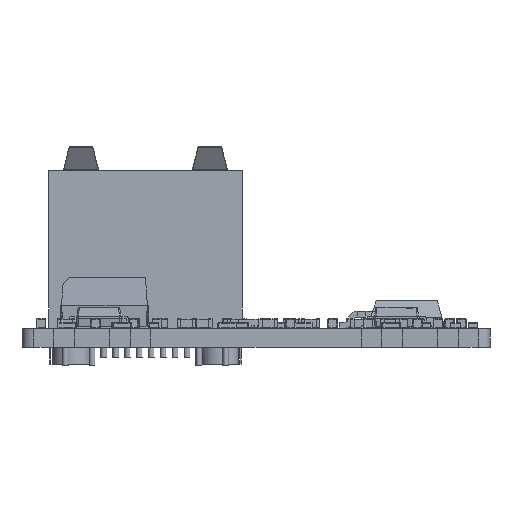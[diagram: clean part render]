
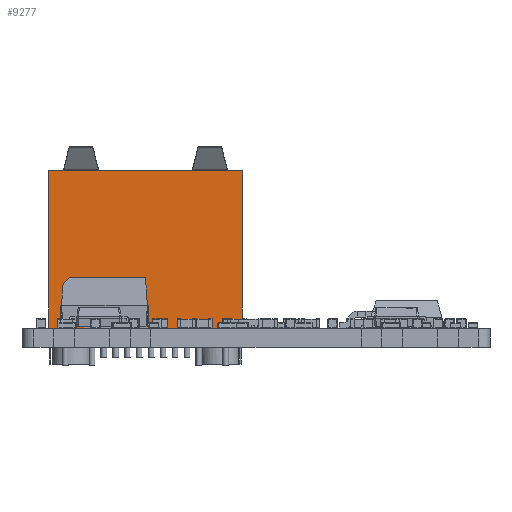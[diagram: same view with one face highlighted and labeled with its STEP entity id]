
A CAD part, front view. The second image highlights one B-rep face of the part: STEP entity #9277.
In plain terms, the highlighted planar face has unit normal (0, -1, 0).
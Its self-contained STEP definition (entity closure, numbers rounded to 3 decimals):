
#9241 = EDGE_CURVE('',#9242,#9244,#9246,.T.);
#9242 = VERTEX_POINT('',#9243);
#9243 = CARTESIAN_POINT('',(11.805,-7.75,0.));
#9244 = VERTEX_POINT('',#9245);
#9245 = CARTESIAN_POINT('',(11.805,-7.75,13.46));
#9246 = LINE('',#9247,#9248);
#9247 = CARTESIAN_POINT('',(11.805,-7.75,0.));
#9248 = VECTOR('',#9249,1.);
#9249 = DIRECTION('',(0.,0.,1.));
#9277 = ADVANCED_FACE('',(#9278),#9303,.F.);
#9278 = FACE_BOUND('',#9279,.F.);
#9279 = EDGE_LOOP('',(#9280,#9290,#9296,#9297));
#9280 = ORIENTED_EDGE('',*,*,#9281,.T.);
#9281 = EDGE_CURVE('',#9282,#9284,#9286,.T.);
#9282 = VERTEX_POINT('',#9283);
#9283 = CARTESIAN_POINT('',(-4.705,-7.75,0.));
#9284 = VERTEX_POINT('',#9285);
#9285 = CARTESIAN_POINT('',(-4.705,-7.75,13.46));
#9286 = LINE('',#9287,#9288);
#9287 = CARTESIAN_POINT('',(-4.705,-7.75,0.));
#9288 = VECTOR('',#9289,1.);
#9289 = DIRECTION('',(0.,0.,1.));
#9290 = ORIENTED_EDGE('',*,*,#9291,.T.);
#9291 = EDGE_CURVE('',#9284,#9244,#9292,.T.);
#9292 = LINE('',#9293,#9294);
#9293 = CARTESIAN_POINT('',(-4.705,-7.75,13.46));
#9294 = VECTOR('',#9295,1.);
#9295 = DIRECTION('',(1.,0.,0.));
#9296 = ORIENTED_EDGE('',*,*,#9241,.F.);
#9297 = ORIENTED_EDGE('',*,*,#9298,.F.);
#9298 = EDGE_CURVE('',#9282,#9242,#9299,.T.);
#9299 = LINE('',#9300,#9301);
#9300 = CARTESIAN_POINT('',(-4.705,-7.75,0.));
#9301 = VECTOR('',#9302,1.);
#9302 = DIRECTION('',(1.,0.,0.));
#9303 = PLANE('',#9304);
#9304 = AXIS2_PLACEMENT_3D('',#9305,#9306,#9307);
#9305 = CARTESIAN_POINT('',(-4.705,-7.75,0.));
#9306 = DIRECTION('',(0.,1.,0.));
#9307 = DIRECTION('',(1.,0.,0.));
